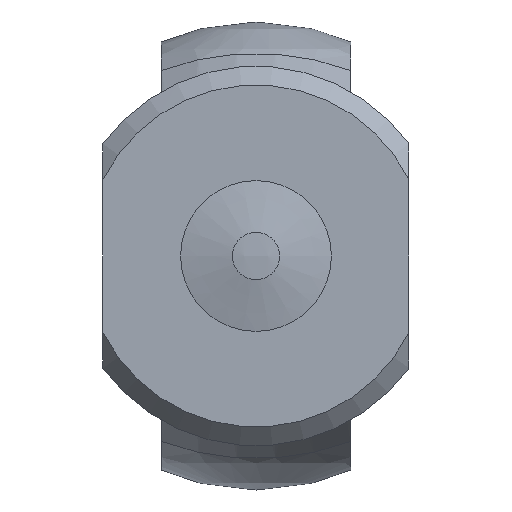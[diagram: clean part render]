
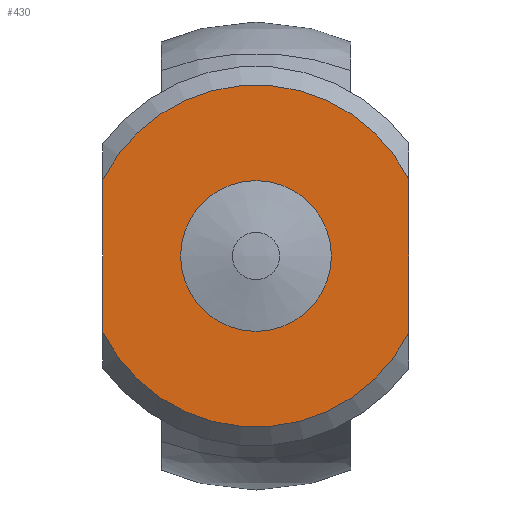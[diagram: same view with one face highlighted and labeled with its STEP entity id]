
A CAD part, front view. The second image highlights one B-rep face of the part: STEP entity #430.
In plain terms, the highlighted planar face has unit normal (0, -1, 0).
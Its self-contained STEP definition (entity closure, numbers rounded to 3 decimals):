
#60=CIRCLE('',#474,9.5);
#65=CIRCLE('',#488,9.5);
#66=CIRCLE('',#490,4.188);
#139=ORIENTED_EDGE('',*,*,#230,.T.);
#140=ORIENTED_EDGE('',*,*,#229,.F.);
#141=ORIENTED_EDGE('',*,*,#220,.T.);
#142=ORIENTED_EDGE('',*,*,#212,.F.);
#143=ORIENTED_EDGE('',*,*,#231,.T.);
#212=EDGE_CURVE('',#261,#262,#60,.T.);
#220=EDGE_CURVE('',#266,#262,#296,.T.);
#229=EDGE_CURVE('',#266,#271,#65,.T.);
#230=EDGE_CURVE('',#261,#271,#299,.T.);
#231=EDGE_CURVE('',#272,#272,#66,.T.);
#261=VERTEX_POINT('',#718);
#262=VERTEX_POINT('',#720);
#266=VERTEX_POINT('',#738);
#271=VERTEX_POINT('',#762);
#272=VERTEX_POINT('',#767);
#296=LINE('',#737,#314);
#299=LINE('',#765,#317);
#314=VECTOR('',#580,1000.);
#317=VECTOR('',#597,1000.);
#335=EDGE_LOOP('',(#139,#140,#141,#142));
#336=EDGE_LOOP('',(#143));
#379=FACE_BOUND('',#335,.T.);
#380=FACE_BOUND('',#336,.T.);
#412=PLANE('',#489);
#430=ADVANCED_FACE('',(#379,#380),#412,.T.);
#474=AXIS2_PLACEMENT_3D('',#719,#560,#561);
#488=AXIS2_PLACEMENT_3D('',#763,#593,#594);
#489=AXIS2_PLACEMENT_3D('',#764,#595,#596);
#490=AXIS2_PLACEMENT_3D('',#766,#598,#599);
#560=DIRECTION('',(0.,1.,0.));
#561=DIRECTION('',(1.,0.,0.));
#580=DIRECTION('',(0.,0.,1.));
#593=DIRECTION('',(0.,1.,0.));
#594=DIRECTION('',(1.,0.,0.));
#595=DIRECTION('',(0.,-1.,0.));
#596=DIRECTION('',(-1.,0.,0.));
#597=DIRECTION('',(0.,0.,-1.));
#598=DIRECTION('',(0.,1.,0.));
#599=DIRECTION('',(1.,0.,0.));
#718=CARTESIAN_POINT('',(-8.5,-43.,4.243));
#719=CARTESIAN_POINT('',(0.,-43.,0.));
#720=CARTESIAN_POINT('',(8.5,-43.,4.243));
#737=CARTESIAN_POINT('',(8.5,-43.,0.));
#738=CARTESIAN_POINT('',(8.5,-43.,-4.243));
#762=CARTESIAN_POINT('',(-8.5,-43.,-4.243));
#763=CARTESIAN_POINT('',(0.,-43.,0.));
#764=CARTESIAN_POINT('',(4.75,-43.,0.));
#765=CARTESIAN_POINT('',(-8.5,-43.,0.));
#766=CARTESIAN_POINT('',(0.,-43.,0.));
#767=CARTESIAN_POINT('',(4.188,-43.,0.));
